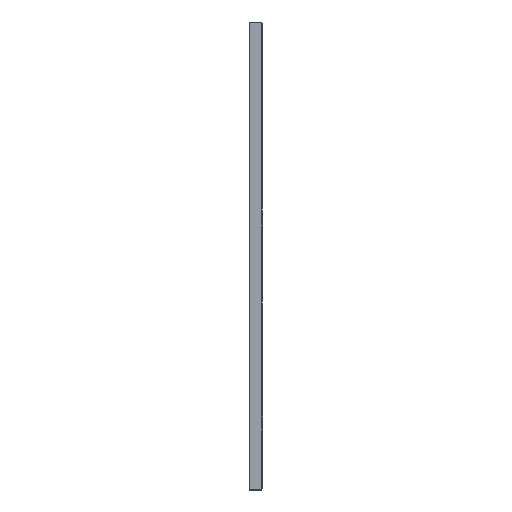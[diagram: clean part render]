
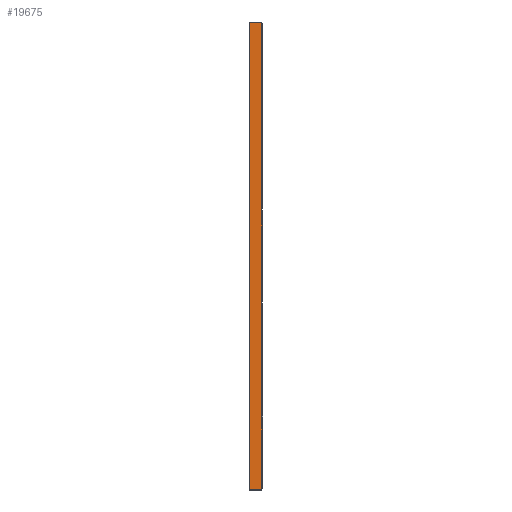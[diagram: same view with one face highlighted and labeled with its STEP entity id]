
A CAD part, top view. The second image highlights one B-rep face of the part: STEP entity #19675.
In plain terms, the highlighted planar face has unit normal (0, 0, 1).
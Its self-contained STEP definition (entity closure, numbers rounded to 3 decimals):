
#542=PLANE('',#20989);
#1535=FACE_OUTER_BOUND('',#2663,.T.);
#2663=EDGE_LOOP('',(#15756,#15757,#15758,#15759,#15760,#15761,#15762,#15763));
#4704=LINE('',#36405,#6647);
#4993=LINE('',#41239,#6936);
#5066=LINE('',#42449,#7009);
#5138=LINE('',#43657,#7081);
#5279=LINE('',#46069,#7222);
#5280=LINE('',#46070,#7223);
#5281=LINE('',#46071,#7224);
#5282=LINE('',#46072,#7225);
#6647=VECTOR('',#22857,10.);
#6936=VECTOR('',#23522,10.);
#7009=VECTOR('',#23689,10.);
#7081=VECTOR('',#23855,10.);
#7222=VECTOR('',#24182,10.);
#7223=VECTOR('',#24183,10.);
#7224=VECTOR('',#24184,10.);
#7225=VECTOR('',#24185,10.);
#8888=VERTEX_POINT('',#36398);
#8890=VERTEX_POINT('',#36404);
#9105=VERTEX_POINT('',#41232);
#9107=VERTEX_POINT('',#41238);
#9161=VERTEX_POINT('',#42443);
#9215=VERTEX_POINT('',#43651);
#9323=VERTEX_POINT('',#46067);
#9324=VERTEX_POINT('',#46068);
#10909=EDGE_CURVE('',#8890,#8888,#4704,.T.);
#11290=EDGE_CURVE('',#9107,#9105,#4993,.T.);
#11386=EDGE_CURVE('',#9105,#9161,#5066,.T.);
#11481=EDGE_CURVE('',#9161,#9215,#5138,.T.);
#11668=EDGE_CURVE('',#9323,#9324,#5279,.T.);
#11669=EDGE_CURVE('',#9324,#8888,#5280,.T.);
#11670=EDGE_CURVE('',#9215,#8890,#5281,.T.);
#11671=EDGE_CURVE('',#9323,#9107,#5282,.T.);
#15756=ORIENTED_EDGE('',*,*,#11668,.T.);
#15757=ORIENTED_EDGE('',*,*,#11669,.T.);
#15758=ORIENTED_EDGE('',*,*,#10909,.F.);
#15759=ORIENTED_EDGE('',*,*,#11670,.F.);
#15760=ORIENTED_EDGE('',*,*,#11481,.F.);
#15761=ORIENTED_EDGE('',*,*,#11386,.F.);
#15762=ORIENTED_EDGE('',*,*,#11290,.F.);
#15763=ORIENTED_EDGE('',*,*,#11671,.F.);
#19675=ADVANCED_FACE('',(#1535),#542,.T.);
#20989=AXIS2_PLACEMENT_3D('',#46066,#24180,#24181);
#22857=DIRECTION('',(0.,-1.,0.));
#23522=DIRECTION('',(0.,-1.,0.));
#23689=DIRECTION('',(0.,-1.,0.));
#23855=DIRECTION('',(0.,-1.,0.));
#24180=DIRECTION('center_axis',(0.,0.,1.));
#24181=DIRECTION('ref_axis',(0.,-1.,0.));
#24182=DIRECTION('',(0.,-1.,0.));
#24183=DIRECTION('',(1.,0.,0.));
#24184=DIRECTION('',(0.,-1.,0.));
#24185=DIRECTION('',(1.,0.,0.));
#36398=CARTESIAN_POINT('',(-0.5,-21.,166.741));
#36404=CARTESIAN_POINT('',(-0.5,21.,166.741));
#36405=CARTESIAN_POINT('',(-0.5,-2.813,166.741));
#41232=CARTESIAN_POINT('',(-0.5,147.,166.741));
#41238=CARTESIAN_POINT('',(-0.5,189.,166.741));
#41239=CARTESIAN_POINT('',(-0.5,165.187,166.741));
#42443=CARTESIAN_POINT('',(-0.5,105.,166.741));
#42449=CARTESIAN_POINT('',(-0.5,123.187,166.741));
#43651=CARTESIAN_POINT('',(-0.5,63.,166.741));
#43657=CARTESIAN_POINT('',(-0.5,81.187,166.741));
#46066=CARTESIAN_POINT('Origin',(-6.,36.373,166.741));
#46067=CARTESIAN_POINT('',(-6.,189.,166.741));
#46068=CARTESIAN_POINT('',(-6.,-21.,166.741));
#46069=CARTESIAN_POINT('',(-6.,63.,166.741));
#46070=CARTESIAN_POINT('',(-6.,-21.,166.741));
#46071=CARTESIAN_POINT('',(-0.5,39.187,166.741));
#46072=CARTESIAN_POINT('',(-6.,189.,166.741));
